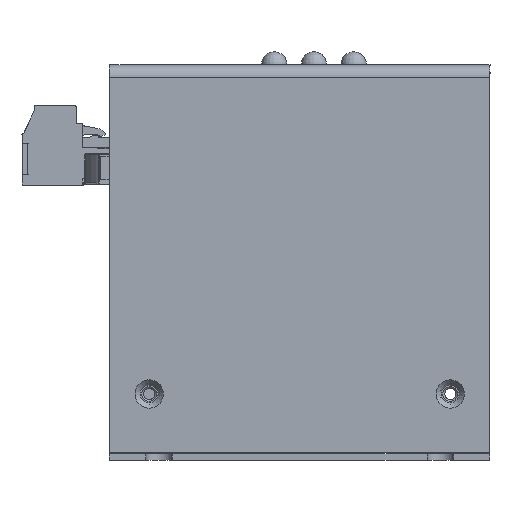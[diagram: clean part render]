
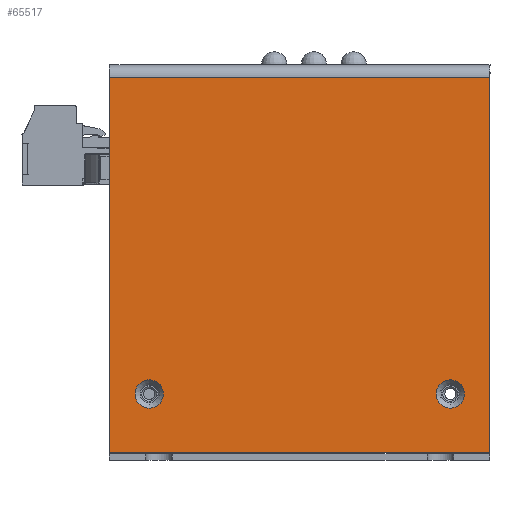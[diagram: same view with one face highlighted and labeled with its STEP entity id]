
A CAD part, left-side view. The second image highlights one B-rep face of the part: STEP entity #65517.
In plain terms, the highlighted planar face has unit normal (-1, 0, 0).
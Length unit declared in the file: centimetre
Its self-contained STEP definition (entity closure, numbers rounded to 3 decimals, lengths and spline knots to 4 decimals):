
#18677=PLANE('',#69986);
#23841=VECTOR('',#82133,1.);
#23849=VECTOR('',#82155,1.);
#23850=VECTOR('',#82156,1.);
#23851=VECTOR('',#82157,1.);
#28920=LINE('',#103297,#23841);
#28928=LINE('',#103319,#23849);
#28929=LINE('',#103321,#23850);
#28930=LINE('',#103323,#23851);
#33369=VERTEX_POINT('',#103158);
#33371=VERTEX_POINT('',#103163);
#33418=VERTEX_POINT('',#103296);
#33419=VERTEX_POINT('',#103298);
#33424=VERTEX_POINT('',#103320);
#33425=VERTEX_POINT('',#103322);
#34844=CIRCLE('',#69945,0.2718);
#34846=CIRCLE('',#69948,0.2718);
#41920=EDGE_CURVE('',#33369,#33369,#34844,.T.);
#41922=EDGE_CURVE('',#33371,#33371,#34846,.T.);
#41997=EDGE_CURVE('',#33418,#33419,#28920,.T.);
#42009=EDGE_CURVE('',#33419,#33424,#28928,.T.);
#42010=EDGE_CURVE('',#33425,#33418,#28929,.T.);
#42011=EDGE_CURVE('',#33424,#33425,#28930,.T.);
#56289=ORIENTED_EDGE('',*,*,#41920,.T.);
#56290=ORIENTED_EDGE('',*,*,#41922,.T.);
#56291=ORIENTED_EDGE('',*,*,#42009,.F.);
#56292=ORIENTED_EDGE('',*,*,#41997,.F.);
#56293=ORIENTED_EDGE('',*,*,#42010,.F.);
#56294=ORIENTED_EDGE('',*,*,#42011,.F.);
#59460=EDGE_LOOP('',(#56289));
#59461=EDGE_LOOP('',(#56290));
#59462=EDGE_LOOP('',(#56291,#56292,#56293,#56294));
#62600=FACE_BOUND('',#59460,.T.);
#62601=FACE_BOUND('',#59461,.T.);
#62602=FACE_BOUND('',#59462,.T.);
#65517=ADVANCED_FACE('',(#62600,#62601,#62602),#18677,.F.);
#69945=AXIS2_PLACEMENT_3D('',#103157,#82032,#82033);
#69948=AXIS2_PLACEMENT_3D('',#103162,#82038,#82039);
#69986=AXIS2_PLACEMENT_3D('',#103318,#82154,$);
#82032=DIRECTION('',(1.,0.,0.));
#82033=DIRECTION('',(0.,0.,0.272));
#82038=DIRECTION('',(1.,0.,0.));
#82039=DIRECTION('',(0.,0.,0.272));
#82133=DIRECTION('',(0.,0.,1.));
#82154=DIRECTION('',(1.,0.,0.));
#82155=DIRECTION('',(0.,-1.,0.));
#82156=DIRECTION('',(0.,1.,0.));
#82157=DIRECTION('',(0.,0.,-1.));
#103157=CARTESIAN_POINT('',(1.0084,-6.5405,-1.143));
#103158=CARTESIAN_POINT('',(1.0084,-6.5405,-0.8712));
#103162=CARTESIAN_POINT('',(1.0084,-0.762,-1.143));
#103163=CARTESIAN_POINT('',(1.0084,-0.762,-0.8712));
#103296=CARTESIAN_POINT('',(1.0084,0.,-2.2682));
#103297=CARTESIAN_POINT('',(1.0084,0.,5.0698));
#103298=CARTESIAN_POINT('',(1.0084,0.,4.9301));
#103318=CARTESIAN_POINT('',(1.0084,-3.6512,1.4008));
#103319=CARTESIAN_POINT('',(1.0084,-3.6513,4.9301));
#103320=CARTESIAN_POINT('',(1.0084,-7.3025,4.9301));
#103321=CARTESIAN_POINT('',(1.0084,0.,-2.2682));
#103322=CARTESIAN_POINT('',(1.0084,-7.3025,-2.2682));
#103323=CARTESIAN_POINT('',(1.0084,-7.3025,-2.2682));
